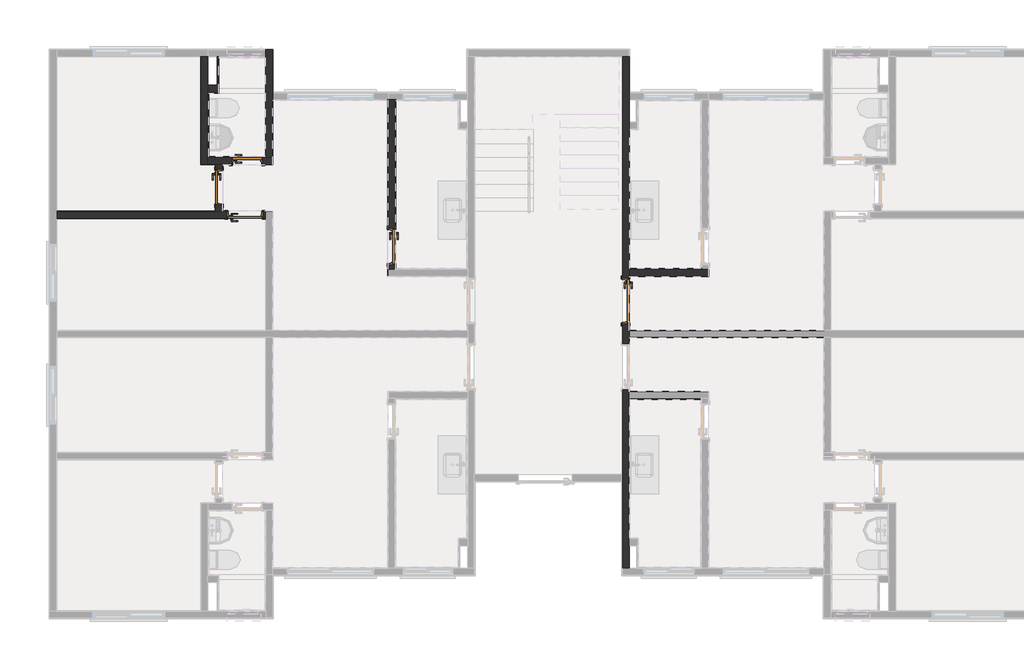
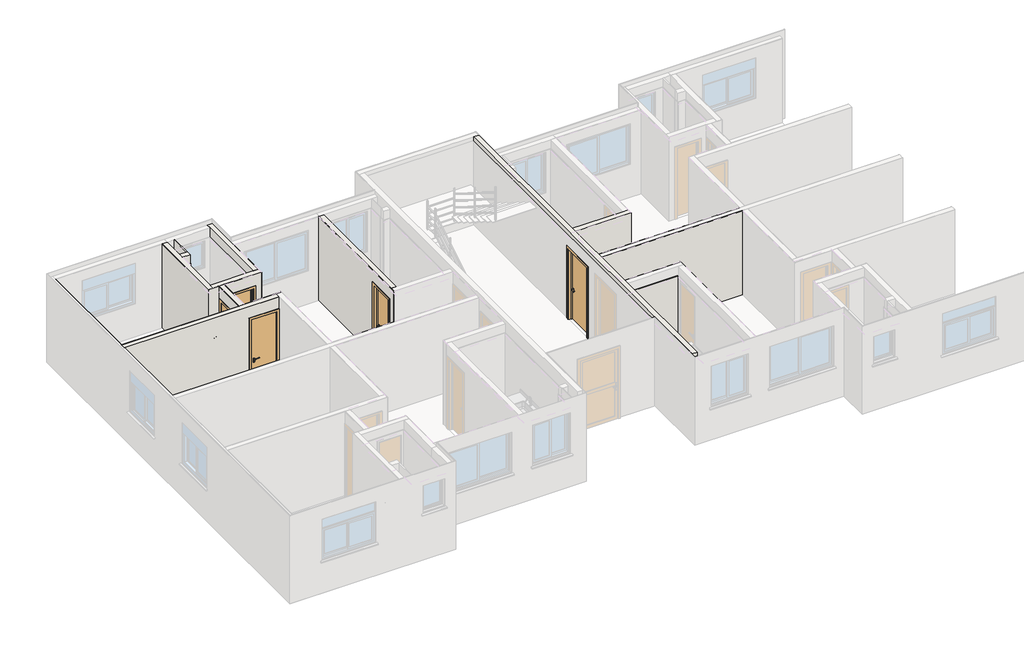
# One storey, part 4 of 9: 36 walls, 5 doors.
"""IFC4 building model written with IfcOpenShell, lengths in millimetres."""

from ifc_helpers import new_model, si_unit, frame, origin, place, context, project, spatial, polyline, outline, extrude, faceted_brep, transform, mapped, element, save
from components import porta_de_madeira_interna_60_x_210_porta_de_madeira_interna_6d4bee1b, porta_de_madeira_interna_70_x_210_porta_de_madeira_interna_d0067c94, porta_de_madeira_interna_70_x_210_porta_de_madeira_interna_f307109d, porta_de_madeira_interna_90x210_porta_de_madeira_interna_90_f331fdd0

model = new_model("IFC4")

# Units and contexts
model_context = context("Model", 3, world=origin())
ifc_project = project(units=[si_unit("LENGTHUNIT", "METRE", prefix="MILLI")], contexts=[model_context])

# Site, building, storey
site = spatial("IfcSite", under=ifc_project)
building = spatial("IfcBuilding", under=site)
storey = spatial("IfcBuildingStorey", under=building, Name="3º Pavimento", Elevation=5260.0)

# Doors
placement = place(None, origin())
porta_de_madeira_interna_60_x_210_porta_de_madeira_interna_shape = porta_de_madeira_interna_60_x_210_porta_de_madeira_interna_6d4bee1b(model_context)
element("IfcDoor", 1, ObjectType="Porta de Madeira Interna 60 x 210 : Porta de Madeira Interna 60 x 210", at=placement, inside=storey, context=model_context, shape_type="MappedRepresentation", body=[
    mapped(porta_de_madeira_interna_60_x_210_porta_de_madeira_interna_shape, transform((4137.9990083, 10003.1988664, 5260.0), x_axis=(1.0, 0.0, 0.0), y_axis=(0.0, 1.0, 0.0), z_axis=(0.0, 0.0, 1.0))),
])
porta_de_madeira_interna_70_x_210_porta_de_madeira_interna_shape = porta_de_madeira_interna_70_x_210_porta_de_madeira_interna_d0067c94(model_context)
element("IfcDoor", 2, ObjectType="Porta de Madeira Interna 70 x 210 : Porta de Madeira Interna 70 x 210", at=placement, inside=storey, context=model_context, shape_type="MappedRepresentation", body=[
    mapped(porta_de_madeira_interna_70_x_210_porta_de_madeira_interna_shape, transform((7146.1736861, 8221.3603139, 5260.0), x_axis=(0.0, -1.0, 0.0), y_axis=(1.0, 0.0, 0.0), z_axis=(0.0, 0.0, 1.0))),
])
porta_de_madeira_interna_70_x_210_porta_de_madeira_interna_2_shape = porta_de_madeira_interna_70_x_210_porta_de_madeira_interna_f307109d(model_context)
element("IfcDoor", 3, ObjectType="Porta de Madeira Interna 70 x 210 : Porta de Madeira Interna 70 x 210", at=placement, inside=storey, context=model_context, shape_type="MappedRepresentation", body=[
    mapped(porta_de_madeira_interna_70_x_210_porta_de_madeira_interna_2_shape, transform((3546.8230641, 9457.0248023, 5260.0), x_axis=(0.0, -1.0, 0.0), y_axis=(1.0, 0.0, 0.0), z_axis=(0.0, 0.0, 1.0))),
])
element("IfcDoor", 4, ObjectType="Porta de Madeira Interna 70 x 210 : Porta de Madeira Interna 70 x 210", at=placement, inside=storey, context=model_context, shape_type="MappedRepresentation", body=[
    mapped(porta_de_madeira_interna_70_x_210_porta_de_madeira_interna_2_shape, transform((4092.999908, 8876.8494803, 5260.0), x_axis=(1.0, 0.0, 0.0), y_axis=(0.0, 1.0, 0.0), z_axis=(0.0, 0.0, 1.0))),
])
porta_de_madeira_interna_90x210_porta_de_madeira_interna_90_shape = porta_de_madeira_interna_90x210_porta_de_madeira_interna_90_f331fdd0(model_context)
element("IfcDoor", 5, ObjectType="Porta de Madeira Interna 90x210 : Porta de Madeira Interna 90 x 210", at=placement, inside=storey, context=model_context, shape_type="MappedRepresentation", body=[
    mapped(porta_de_madeira_interna_90x210_porta_de_madeira_interna_90_shape, transform((12023.1734066, 7085.0103139, 5260.0), x_axis=(0.0, -1.0, 0.0), y_axis=(1.0, 0.0, 0.0), z_axis=(0.0, 0.0, 1.0))),
])

# Walls
element("IfcWall", 6, ObjectType="Mureta box", at=placement, inside=storey, context=model_context, shape_type="SweptSolid", body=[
    extrude(outline(polyline([(3529.99398, 11505.0235306), (4509.99398, 11505.0235306), (4509.99398, 11495.0235306), (3529.99398, 11495.0235306), (3529.99398, 11505.0235306)])), frame((0.0, 0.0, 5260.0), z_axis=(0.0, 0.0, 1.0), x_axis=(1.0, 0.0, 0.0)), (0.0, 0.0, 1.0), 90.0),
    extrude(outline(polyline([(4509.99398, 11425.0235306), (3529.99398, 11425.0235306), (3529.99398, 11435.0235306), (4509.99398, 11435.0235306), (4509.99398, 11425.0235306)])), frame((0.0, 0.0, 5260.0), z_axis=(0.0, 0.0, 1.0), x_axis=(1.0, 0.0, 0.0)), (0.0, 0.0, 1.0), 90.0),
    extrude(outline(polyline([(3529.99398, 11435.0235306), (3529.99398, 11495.0235306), (4509.99398, 11495.0235306), (4509.99398, 11435.0235306), (3529.99398, 11435.0235306)])), frame((0.0, 0.0, 5260.0), z_axis=(0.0, 0.0, 1.0), x_axis=(1.0, 0.0, 0.0)), (0.0, 0.0, 1.0), 90.0),
])
element("IfcWall", 7, ObjectType="Alvenaria Estrutural", at=placement, inside=storey, context=model_context, shape_type="Brep", body=[
    faceted_brep([(3619.9980641, 9930.0238664, 7770.0), (3619.9980641, 9924.0238664, 7770.0), (3619.9980641, 8956.0244803, 7770.0), (3619.9980641, 8950.0244803, 7770.0), (3619.9980641, 8950.0244803, 5260.0), (3619.9980641, 8956.0244803, 5260.0), (3619.9980641, 9082.0248023, 5260.0), (3619.9980641, 9082.0248023, 7385.0), (3619.9980641, 9832.0248023, 7385.0), (3619.9980641, 9832.0248023, 5260.0), (3619.9980641, 9924.0238664, 5260.0), (3619.9980641, 9930.0238664, 5260.0), (3479.9980641, 8950.0244803, 7770.0), (3479.9980641, 9924.0238664, 7770.0), (3479.9980641, 9930.0238664, 7770.0), (3479.9980641, 9930.0238664, 5260.0), (3479.9980641, 9924.0238664, 5260.0), (3479.9980641, 9832.0248023, 5260.0), (3479.9980641, 9832.0248023, 7385.0), (3479.9980641, 9082.0248023, 7385.0), (3479.9980641, 9082.0248023, 5260.0), (3479.9980641, 8950.0244803, 5260.0)], [[[0, 1, 2, 3, 4, 5, 6, 7, 8, 9, 10, 11]], [[12, 13, 14, 15, 16, 17, 18, 19, 20, 21]], [[5, 4, 21, 20, 6]], [[1, 0, 14, 13, 12, 3, 2]], [[7, 6, 20, 19]], [[8, 7, 19, 18]], [[9, 8, 18, 17]], [[4, 3, 12, 21]], [[0, 11, 15, 14]], [[10, 9, 17, 16, 15, 11]]]),
])
element("IfcWall", 8, ObjectType="Alvenaria Estrutural", at=placement, inside=storey, context=model_context, shape_type="Brep", body=[
    faceted_brep([(3179.9977061, 12180.0252435, 5260.0), (3179.9977061, 12174.0253822, 5260.0), (3179.9977061, 9930.025593, 5260.0), (3179.9977061, 9930.025593, 7770.0), (3179.9977061, 12174.0253822, 7770.0), (3179.9977061, 12180.0252435, 7770.0), (3319.9977061, 12180.0252435, 5260.0), (3319.9977061, 12180.0252435, 7770.0), (3319.9977061, 11580.0235306, 7770.0), (3319.9977061, 11440.0235306, 7770.0), (3319.9977061, 10070.0238664, 7770.0), (3319.9977061, 9930.025593, 7770.0), (3319.9977061, 9930.025593, 5260.0), (3319.9977061, 10070.0238664, 5260.0), (3319.9977061, 10090.0238664, 5260.0), (3319.9977061, 11420.0235306, 5260.0), (3319.9977061, 11440.0235306, 5260.0), (3319.9977061, 11580.0235306, 5260.0)], [[[0, 1, 2, 3, 4, 5]], [[6, 7, 8, 9, 10, 11, 12, 13, 14, 15, 16, 17]], [[1, 0, 6, 17, 16, 15, 14, 13, 12, 2]], [[3, 2, 12, 11]], [[4, 3, 11, 10, 9, 8, 7, 5]], [[0, 5, 7, 6]]]),
])
element("IfcWall", 9, ObjectType="Alvenaria Estrutural", at=placement, inside=storey, context=model_context, shape_type="Brep", body=[
    faceted_brep([(3319.9977061, 11440.0235306, 5260.0), (3539.99398, 11440.0235306, 5260.0), (3539.99398, 11440.0235306, 7770.0), (3319.9977061, 11440.0235306, 7770.0), (3319.9977061, 11580.0235306, 5260.0), (3319.9977061, 11580.0235306, 7770.0), (3516.99398, 11580.0235306, 7770.0), (3539.99398, 11580.0235306, 7770.0), (3539.99398, 11580.0235306, 5260.0), (3516.99398, 11580.0235306, 5260.0)], [[[0, 1, 2, 3]], [[4, 5, 6, 7, 8, 9]], [[1, 0, 4, 9, 8]], [[3, 2, 7, 6, 5]], [[2, 1, 8, 7]], [[0, 3, 5, 4]]]),
])
element("IfcWall", 10, ObjectType="Alvenaria Estrutural", at=placement, inside=storey, context=model_context, shape_type="Brep", body=[
    faceted_brep([(4669.9986472, 9930.0238664, 7770.0), (3625.9980641, 9930.0238664, 7770.0), (3619.9980641, 9930.0238664, 7770.0), (3479.9980641, 9930.0238664, 7770.0), (3319.9977061, 9930.0238664, 7770.0), (3319.9977061, 9930.0238664, 5260.0), (3479.9980641, 9930.0238664, 5260.0), (3619.9980641, 9930.0238664, 5260.0), (3625.9980641, 9930.0238664, 5260.0), (3812.9990083, 9930.0238664, 5260.0), (3812.9990083, 9930.0238664, 7385.0), (4462.9990083, 9930.0238664, 7385.0), (4462.9990083, 9930.0238664, 5260.0), (4669.9986472, 9930.0238664, 5260.0), (3319.9977061, 10070.0238664, 7770.0), (4529.9986472, 10070.0238664, 7770.0), (4669.9986472, 10070.0238664, 7770.0), (4669.9986472, 10070.0238664, 5260.0), (4529.9986472, 10070.0238664, 5260.0), (4462.9990083, 10070.0238664, 5260.0), (4462.9990083, 10070.0238664, 7385.0), (3812.9990083, 10070.0238664, 7385.0), (3812.9990083, 10070.0238664, 5260.0), (3319.9977061, 10070.0238664, 5260.0), (3319.9977061, 10070.0238664, 7510.0)], [[[0, 1, 2, 3, 4, 5, 6, 7, 8, 9, 10, 11, 12, 13]], [[14, 15, 16, 17, 18, 19, 20, 21, 22, 23, 24]], [[6, 5, 23, 22, 9, 8, 7]], [[1, 0, 16, 15, 14, 4, 3, 2]], [[12, 11, 20, 19]], [[11, 10, 21, 20]], [[10, 9, 22, 21]], [[0, 13, 17, 16]], [[5, 4, 14, 24, 23]], [[13, 12, 19, 18, 17]]]),
])
element("IfcWall", 11, ObjectType="Alvenaria Estrutural", at=placement, inside=storey, context=model_context, shape_type="Brep", body=[
    faceted_brep([(4529.9986472, 12320.025593, 5260.0), (4529.9986472, 12180.025593, 5260.0), (4529.9986472, 10090.0238664, 5260.0), (4529.9986472, 10070.0238664, 5260.0), (4529.9986472, 10070.0238664, 7510.0), (4529.9986472, 10070.0238664, 7770.0), (4529.9986472, 12180.025593, 7770.0), (4529.9986472, 12320.025593, 7770.0), (4669.9986472, 12320.025593, 5260.0), (4669.9986472, 12320.025593, 7770.0), (4669.9986472, 11420.0223004, 7770.0), (4669.9986472, 11280.0223004, 7770.0), (4669.9986472, 11274.0223004, 7770.0), (4669.9986472, 10070.0238664, 7770.0), (4669.9986472, 10070.0238664, 5260.0), (4669.9986472, 11274.0223004, 5260.0), (4669.9986472, 11280.0223004, 5260.0), (4669.9986472, 11420.0223004, 5260.0), (4669.9986472, 11436.0223004, 5260.0)], [[[0, 1, 2, 3, 4, 5, 6, 7]], [[8, 9, 10, 11, 12, 13, 14, 15, 16, 17, 18]], [[1, 0, 8, 18, 17, 16, 15, 14, 3, 2]], [[6, 5, 13, 12, 11, 10, 9, 7]], [[0, 7, 9, 8]], [[4, 3, 14, 13, 5]]]),
])
element("IfcWall", 12, ObjectType="Alvenaria Estrutural", at=placement, inside=storey, context=model_context, shape_type="Brep", body=[
    faceted_brep([(169.9991825, 8950.0244803, 7770.0), (175.9991825, 8950.0244803, 7770.0), (3473.9980641, 8950.0244803, 7770.0), (3479.9980641, 8950.0244803, 7770.0), (3619.9980641, 8950.0244803, 7770.0), (3625.9980641, 8950.0244803, 7770.0), (4529.9996867, 8950.0244803, 7770.0), (4529.9996867, 8950.0244803, 5260.0), (4467.999908, 8950.0244803, 5260.0), (4467.999908, 8950.0244803, 7385.0), (3717.999908, 8950.0244803, 7385.0), (3717.999908, 8950.0244803, 5260.0), (3625.9980641, 8950.0244803, 5260.0), (3619.9980641, 8950.0244803, 5260.0), (3479.9980641, 8950.0244803, 5260.0), (3473.9980641, 8950.0244803, 5260.0), (175.9991825, 8950.0244803, 5260.0), (169.9991825, 8950.0244803, 5260.0), (4529.9996867, 8810.0244803, 7770.0), (4523.9996867, 8810.0244803, 7770.0), (175.9991825, 8810.0244803, 7770.0), (169.9991825, 8810.0244803, 7770.0), (169.9991825, 8810.0244803, 5260.0), (175.9991825, 8810.0244803, 5260.0), (3717.999908, 8810.0244803, 5260.0), (3717.999908, 8810.0244803, 7385.0), (4467.999908, 8810.0244803, 7385.0), (4467.999908, 8810.0244803, 5260.0), (4523.9996867, 8810.0244803, 5260.0), (4529.9996867, 8810.0244803, 5260.0)], [[[0, 1, 2, 3, 4, 5, 6, 7, 8, 9, 10, 11, 12, 13, 14, 15, 16, 17]], [[18, 19, 20, 21, 22, 23, 24, 25, 26, 27, 28, 29]], [[8, 7, 29, 28, 27]], [[1, 0, 21, 20, 19, 18, 6, 5, 4, 3, 2]], [[9, 8, 27, 26]], [[10, 9, 26, 25]], [[11, 10, 25, 24]], [[7, 6, 18, 29]], [[0, 17, 22, 21]], [[12, 11, 24, 23, 22, 17, 16, 15, 14, 13]]]),
])
element("IfcWall", 13, ObjectType="Alvenaria Estrutural", at=placement, inside=storey, context=model_context, shape_type="Brep", body=[
    faceted_brep([(7072.9986861, 7746.3603139, 7770.0), (7072.9986861, 11274.0223004, 7770.0), (7072.9986861, 11280.0223004, 7770.0), (7072.9986861, 11280.0223004, 5260.0), (7072.9986861, 11274.0223004, 5260.0), (7072.9986861, 8596.3603139, 5260.0), (7072.9986861, 8596.3603139, 7385.0), (7072.9986861, 7846.3603139, 7385.0), (7072.9986861, 7846.3603139, 5260.0), (7072.9986861, 7746.3603139, 5260.0), (7212.9986861, 11280.0223004, 7770.0), (7212.9986861, 7746.3603139, 7770.0), (7212.9986861, 7746.3603139, 7510.0), (7212.9986861, 7746.3603139, 5260.0), (7212.9986861, 7766.3603139, 5260.0), (7212.9986861, 7846.3603139, 5260.0), (7212.9986861, 7846.3603139, 7385.0), (7212.9986861, 8596.3603139, 7385.0), (7212.9986861, 8596.3603139, 5260.0), (7212.9986861, 11260.0223004, 5260.0), (7212.9986861, 11280.0223004, 5260.0), (7212.9986861, 11280.0223004, 7510.0), (7079.9990083, 11280.0223004, 5260.0), (7079.9990083, 11280.0223004, 7770.0)], [[[0, 1, 2, 3, 4, 5, 6, 7, 8, 9]], [[10, 11, 12, 13, 14, 15, 16, 17, 18, 19, 20, 21]], [[4, 3, 22, 20, 19, 18, 5]], [[1, 0, 11, 10, 23, 2]], [[8, 7, 16, 15]], [[7, 6, 17, 16]], [[6, 5, 18, 17]], [[0, 9, 13, 12, 11]], [[3, 2, 23, 10, 21, 20, 22]], [[9, 8, 15, 14, 13]]]),
])
element("IfcWall", 14, ObjectType="Alvenaria Estrutural", at=placement, inside=storey, context=model_context, shape_type="Brep", body=[
    faceted_brep([(11949.9984066, 12173.9995833, 5260.0), (11949.9984066, 12179.9995833, 5260.0), (12089.9984066, 12179.9995833, 5260.0), (12089.9984066, 11436.0223004, 5260.0), (12089.9984066, 11420.0223004, 5260.0), (12089.9984066, 10815.0073729, 5260.0), (12089.9984066, 10675.0073729, 5260.0), (12089.9984066, 10655.0073729, 5260.0), (12089.9984066, 7766.3603139, 5260.0), (12089.9984066, 7746.3603139, 5260.0), (12089.9984066, 7606.3603139, 5260.0), (12089.9984066, 7560.0103139, 5260.0), (11949.9984066, 7560.0103139, 5260.0), (11949.9984066, 7560.0103139, 5270.0), (12089.9984066, 7560.0103139, 5270.0), (12089.9984066, 7560.0103139, 7385.0), (11949.9984066, 7560.0103139, 7385.0), (11949.9984066, 6610.0103139, 5260.0), (11949.9984066, 6610.0103139, 5270.0), (11949.9984066, 6610.0103139, 7385.0), (12089.9984066, 6610.0103139, 7385.0), (12089.9984066, 6610.0103139, 5270.0), (12089.9984066, 6610.0103139, 5260.0), (11949.9984066, 6190.0103139, 5260.0), (12089.9984066, 6476.0103139, 5260.0), (12089.9984066, 6470.0103139, 5260.0), (12089.9984066, 6330.0103139, 5260.0), (12089.9984066, 6324.0103139, 5260.0), (12089.9984066, 6190.0103139, 5260.0), (11949.9984066, 6190.0103139, 5270.0), (12089.9984066, 6190.0103139, 5270.0), (12089.9984066, 6190.0103139, 7385.0), (11949.9984066, 6190.0103139, 7385.0), (11949.9984066, 5240.0103139, 5260.0), (11949.9984066, 5240.0103139, 5270.0), (11949.9984066, 5240.0103139, 7385.0), (12089.9984066, 5240.0103139, 7385.0), (12089.9984066, 5240.0103139, 5270.0), (12089.9984066, 5240.0103139, 5260.0), (11949.9984066, 3468.9995833, 5260.0), (12089.9984066, 5193.6603139, 5260.0), (12089.9984066, 5053.6603139, 5260.0), (12089.9984066, 5033.6603139, 5260.0), (12089.9984066, 2145.0132549, 5260.0), (12089.9984066, 2125.0132549, 5260.0), (12089.9984066, 1985.0132549, 5260.0), (12089.9984066, 1519.9983274, 5260.0), (11949.9984066, 1519.9983274, 5260.0), (11949.9984066, 3314.00443, 5260.0), (11949.9984066, 3330.00443, 5260.0), (11949.9984066, 1519.9983274, 5270.0), (12089.9984066, 1519.9983274, 5270.0), (12089.9984066, 1519.9983274, 7780.0), (12089.9984066, 1519.9983274, 7890.0), (11949.9984066, 1519.9983274, 7890.0), (11949.9984066, 1519.9983274, 7780.0), (12089.9984066, 12179.9995833, 5270.0), (12089.9984066, 12179.9995833, 7780.0), (12089.9984066, 12179.9995833, 7890.0), (12089.9984066, 11436.0223004, 7890.0), (12089.9984066, 11420.0223004, 7890.0), (11949.9984066, 3314.00443, 7890.0), (11949.9984066, 3330.00443, 7890.0), (11949.9984066, 12179.9995833, 7890.0), (11949.9984066, 12179.9995833, 7780.0), (11949.9984066, 12179.9995833, 7770.0), (11949.9984066, 12179.9995833, 5270.0)], [[[0, 1, 2, 3, 4, 5, 6, 7, 8, 9, 10, 11, 12]], [[13, 12, 11, 14, 15, 16]], [[17, 18, 19, 20, 21, 22]], [[23, 17, 22, 24, 25, 26, 27, 28]], [[29, 23, 28, 30, 31, 32]], [[33, 34, 35, 36, 37, 38]], [[39, 33, 38, 40, 41, 42, 43, 44, 45, 46, 47, 48, 49]], [[50, 47, 46, 51, 52, 53, 54, 55]], [[51, 46, 45, 44, 43, 42, 41, 40, 38, 37, 36, 31, 30, 28, 27, 26, 25, 24, 22, 21, 20, 15, 14, 11, 10, 9, 8, 7, 6, 5, 4, 3, 2, 56, 57, 58, 59, 60, 53, 52]], [[19, 16, 15, 20]], [[35, 32, 31, 36]], [[34, 33, 39, 49, 48, 47, 50, 55, 54, 61, 62, 63, 64, 65, 66, 1, 0, 12, 13, 16, 19, 18, 17, 23, 29, 32, 35]], [[1, 66, 65, 64, 63, 58, 57, 56, 2]], [[61, 54, 53, 60, 59, 58, 63, 62]]]),
])
element("IfcWall", 15, ObjectType="Alvenaria Estrutural", at=placement, inside=storey, context=model_context, shape_type="Brep", body=[
    faceted_brep([(12089.9984066, 7606.3603139, 5260.0), (12095.9984066, 7606.3603139, 5260.0), (13746.9960213, 7606.3603139, 5260.0), (13746.9960213, 7606.3603139, 7770.0), (12095.9984066, 7606.3603139, 7770.0), (12089.9984066, 7606.3603139, 7770.0), (12089.9984066, 7746.3603139, 5260.0), (12089.9984066, 7746.3603139, 7510.0), (12089.9984066, 7746.3603139, 7770.0), (13606.9960213, 7746.3603139, 7770.0), (13746.9960213, 7746.3603139, 7770.0), (13746.9960213, 7746.3603139, 5260.0), (13606.9960213, 7746.3603139, 5260.0), (13586.992975, 7746.3603139, 5260.0), (12109.9984066, 7746.3603139, 5260.0)], [[[0, 1, 2, 3, 4, 5]], [[6, 7, 8, 9, 10, 11, 12, 13, 14]], [[1, 0, 6, 14, 13, 12, 11, 2]], [[4, 3, 10, 9, 8, 5]], [[3, 2, 11, 10]], [[0, 5, 8, 7, 6]]]),
])
element("IfcWall", 16, ObjectType="Azulejo", at=placement, inside=storey, context=model_context, shape_type="SweptSolid", body=[
    extrude(outline(polyline([(11280.0223004, 5260.0), (8596.3603139, 5260.0), (8596.3603139, 7385.0), (7846.3603139, 7385.0), (7846.3603139, 5260.0), (7746.3603139, 5260.0), (7746.3603139, 7510.0), (11280.0223004, 7510.0), (11280.0223004, 5260.0)])), frame((7223.0017324, 0.0, 0.0), z_axis=(1.0, 0.0, 0.0), x_axis=(0.0, 1.0, 0.0)), (0.0, 0.0, 1.0), 10.0),
    extrude(outline(polyline([(7746.3603139, 7510.0), (11280.0223004, 7510.0), (11280.0223004, 5260.0), (8596.3603139, 5260.0), (8596.3603139, 7385.0), (7846.3603139, 7385.0), (7846.3603139, 5260.0), (7746.3603139, 5260.0), (7746.3603139, 7510.0)])), frame((7213.0017324, 0.0, 0.0), z_axis=(1.0, 0.0, 0.0), x_axis=(0.0, 1.0, 0.0)), (0.0, 0.0, 1.0), 10.0),
])
element("IfcWall", 17, ObjectType="Azulejo", at=placement, inside=storey, context=model_context, shape_type="SolidModel", body=[
    faceted_brep([(3339.9976538, 10090.0238664, 5260.0), (3812.9990083, 10090.0238664, 5260.0), (3812.9990083, 10080.0238664, 5260.0), (3329.9976538, 10080.0238664, 5260.0), (3329.9976538, 10090.0238664, 5260.0), (4509.9990083, 10090.0238664, 7510.0), (3339.9976538, 10090.0238664, 7510.0), (3329.9976538, 10090.0238664, 7510.0), (3329.9976538, 10080.0238664, 7510.0), (4519.9990083, 10080.0238664, 7510.0), (4519.9990083, 10090.0238664, 7510.0), (4462.9990083, 10090.0238664, 7385.0), (4462.9990083, 10090.0238664, 5260.0), (4462.9990083, 10080.0238664, 5260.0), (4462.9990083, 10080.0238664, 7385.0), (3812.9990083, 10080.0238664, 7385.0), (3812.9990083, 10090.0238664, 7385.0), (4509.9990083, 10090.0238664, 5260.0), (4519.9990083, 10090.0238664, 5260.0), (4519.9990083, 10080.0238664, 5260.0)], [[[0, 1, 2, 3, 4]], [[5, 6, 7, 8, 9, 10]], [[11, 12, 13, 14]], [[11, 14, 15, 16]], [[2, 1, 16, 15]], [[13, 12, 17, 18, 19]], [[14, 13, 19, 9, 8, 3, 2, 15]], [[1, 0, 4, 7, 6, 5, 10, 18, 17, 12, 11, 16]], [[4, 3, 8, 7]], [[10, 9, 19, 18]]]),
    extrude(outline(polyline([(7510.0, 4529.9986472), (7510.0, 3319.9977061), (5260.0, 3319.9977061), (5260.0, 3812.9990083), (7385.0, 3812.9990083), (7385.0, 4462.9990083), (5260.0, 4462.9990083), (5260.0, 4529.9986472), (7510.0, 4529.9986472)])), frame((0.0, 10070.0238664, 0.0), z_axis=(0.0, 1.0, 0.0), x_axis=(0.0, 0.0, 1.0)), (0.0, 0.0, 1.0), 10.0),
])
element("IfcWall", 18, ObjectType="Azulejo", at=placement, inside=storey, context=model_context, shape_type="SweptSolid", body=[
    extrude(outline(polyline([(3549.99398, 11580.0235306), (3549.99398, 11430.0235306), (3539.99398, 11430.0235306), (3539.99398, 11580.0235306), (3549.99398, 11580.0235306)])), frame((0.0, 0.0, 5260.0), z_axis=(0.0, 0.0, 1.0), x_axis=(1.0, 0.0, 0.0)), (0.0, 0.0, 1.0), 2250.0),
    extrude(outline(polyline([(3529.99398, 11440.0235306), (3529.99398, 11580.0235306), (3539.99398, 11580.0235306), (3539.99398, 11440.0235306), (3529.99398, 11440.0235306)])), frame((0.0, 0.0, 5260.0), z_axis=(0.0, 0.0, 1.0), x_axis=(1.0, 0.0, 0.0)), (0.0, 0.0, 1.0), 2250.0),
])
element("IfcWall", 19, ObjectType="Azulejo", at=placement, inside=storey, context=model_context, shape_type="Brep", body=[
    faceted_brep([(3549.99398, 11430.0235306, 5260.0), (3549.99398, 11420.0235306, 5260.0), (3339.9976538, 11420.0235306, 5260.0), (3329.9976538, 11420.0235306, 5260.0), (3329.9976538, 11430.0235306, 5260.0), (3339.9976538, 11420.0235306, 7510.0), (3549.99398, 11420.0235306, 7510.0), (3549.99398, 11430.0235306, 7510.0), (3329.9976538, 11430.0235306, 7510.0), (3329.9976538, 11420.0235306, 7510.0)], [[[0, 1, 2, 3, 4]], [[5, 6, 7, 8, 9]], [[1, 0, 7, 6]], [[7, 0, 4, 8]], [[2, 1, 6, 5, 9, 3]], [[4, 3, 9, 8]]]),
    faceted_brep([(3319.9977061, 11430.0235306, 5260.0), (3539.99398, 11430.0235306, 5260.0), (3539.99398, 11430.0235306, 7510.0), (3319.9977061, 11430.0235306, 7510.0), (3319.9977061, 11440.0235306, 5260.0), (3319.9977061, 11440.0235306, 7510.0), (3529.99398, 11440.0235306, 7510.0), (3539.99398, 11440.0235306, 7510.0), (3539.99398, 11440.0235306, 5260.0), (3529.99398, 11440.0235306, 5260.0)], [[[0, 1, 2, 3]], [[4, 5, 6, 7, 8, 9]], [[9, 8, 1, 0, 4]], [[6, 5, 3, 2, 7]], [[5, 4, 0, 3]], [[8, 7, 2, 1]]]),
])
element("IfcWall", 20, ObjectType="Azulejo", at=placement, inside=storey, context=model_context, shape_type="SweptSolid", body=[
    extrude(outline(polyline([(3339.9976538, 11420.0235306), (3339.9976538, 10090.0238664), (3329.9976538, 10090.0238664), (3329.9976538, 11420.0235306), (3339.9976538, 11420.0235306)])), frame((0.0, 0.0, 5260.0), z_axis=(0.0, 0.0, 1.0), x_axis=(1.0, 0.0, 0.0)), (0.0, 0.0, 1.0), 2250.0),
    extrude(outline(polyline([(3319.9976538, 10080.0238664), (3319.9976538, 11430.0235306), (3329.9976538, 11430.0235306), (3329.9976538, 10080.0238664), (3319.9976538, 10080.0238664)])), frame((0.0, 0.0, 5260.0), z_axis=(0.0, 0.0, 1.0), x_axis=(1.0, 0.0, 0.0)), (0.0, 0.0, 1.0), 2250.0),
])
element("IfcWall", 21, ObjectType="Azulejo", at=placement, inside=storey, context=model_context, shape_type="SweptSolid", body=[
    extrude(outline(polyline([(13606.9960213, 5033.6603139), (12089.9984066, 5033.6603139), (12089.9984066, 5043.6603139), (13606.9960213, 5043.6603139), (13606.9960213, 5033.6603139)])), frame((0.0, 0.0, 5260.0), z_axis=(0.0, 0.0, 1.0), x_axis=(1.0, 0.0, 0.0)), (0.0, 0.0, 1.0), 2250.0),
    extrude(outline(polyline([(12089.9984066, 5053.6603139), (13606.9960213, 5053.6603139), (13606.9960213, 5043.6603139), (12089.9984066, 5043.6603139), (12089.9984066, 5053.6603139)])), frame((0.0, 0.0, 5260.0), z_axis=(0.0, 0.0, 1.0), x_axis=(1.0, 0.0, 0.0)), (0.0, 0.0, 1.0), 2250.0),
])
element("IfcWall", 22, ObjectType="Azulejo", at=placement, inside=storey, context=model_context, shape_type="SweptSolid", body=[
    extrude(outline(polyline([(12089.9984066, 7766.3603139), (13606.9960213, 7766.3603139), (13606.9960213, 7756.3603139), (12089.9984066, 7756.3603139), (12089.9984066, 7766.3603139)])), frame((0.0, 0.0, 5260.0), z_axis=(0.0, 0.0, 1.0), x_axis=(1.0, 0.0, 0.0)), (0.0, 0.0, 1.0), 2250.0),
    extrude(outline(polyline([(13606.9960213, 7746.3603139), (12089.9984066, 7746.3603139), (12089.9984066, 7756.3603139), (13606.9960213, 7756.3603139), (13606.9960213, 7746.3603139)])), frame((0.0, 0.0, 5260.0), z_axis=(0.0, 0.0, 1.0), x_axis=(1.0, 0.0, 0.0)), (0.0, 0.0, 1.0), 2250.0),
])
element("IfcWall", 23, ObjectType="Azulejo - Shaft", at=placement, inside=storey, context=model_context, shape_type="SweptSolid", body=[
    extrude(outline(polyline([(3539.99398, 11580.0235306), (3539.99398, 12160.025593), (3549.99398, 12160.025593), (3549.99398, 11580.0235306), (3539.99398, 11580.0235306)])), frame((0.0, 0.0, 5260.0), z_axis=(0.0, 0.0, 1.0), x_axis=(1.0, 0.0, 0.0)), (0.0, 0.0, 1.0), 2250.0),
])
element("IfcWall", 24, ObjectType="Gesso Liso + Pintura", at=placement, inside=storey, context=model_context, shape_type="SweptSolid", body=[
    extrude(outline(polyline([(7770.0, 4529.9996867), (7770.0, 169.9991825), (5260.0, 169.9991825), (5260.0, 3717.999908), (7385.0, 3717.999908), (7385.0, 4467.999908), (5260.0, 4467.999908), (5260.0, 4529.9996867), (7770.0, 4529.9996867)])), frame((0.0, 8804.0244803, 0.0), z_axis=(0.0, 1.0, 0.0), x_axis=(0.0, 0.0, 1.0)), (0.0, 0.0, 1.0), 1.0),
    extrude(outline(polyline([(5260.0, 169.9991825), (5260.0, 3717.999908), (7385.0, 3717.999908), (7385.0, 4467.999908), (5260.0, 4467.999908), (5260.0, 4529.9996867), (7770.0, 4529.9996867), (7770.0, 169.9991825), (5260.0, 169.9991825)])), frame((0.0, 8805.0244803, 0.0), z_axis=(0.0, 1.0, 0.0), x_axis=(0.0, 0.0, 1.0)), (0.0, 0.0, 1.0), 5.0),
])
element("IfcWall", 25, ObjectType="Gesso Liso + Pintura", at=placement, inside=storey, context=model_context, shape_type="SolidModel", body=[
    faceted_brep([(175.9991825, 12174.0253822, 5260.0), (175.9991825, 8950.0244803, 5260.0), (174.9991825, 8950.0244803, 5260.0), (174.9991825, 12175.0253822, 5260.0), (175.9991825, 12175.0253822, 5260.0), (174.9991825, 8950.0244803, 7770.0), (175.9991825, 8950.0244803, 7770.0), (175.9991825, 12174.0253822, 7770.0), (175.9991825, 12175.0253822, 7770.0), (174.9991825, 12175.0253822, 7770.0)], [[[0, 1, 2, 3, 4]], [[5, 6, 7, 8, 9]], [[2, 1, 6, 5]], [[2, 5, 9, 3]], [[1, 0, 4, 8, 7, 6]], [[4, 3, 9, 8]]]),
    extrude(outline(polyline([(169.9991825, 8950.0244803), (169.9991825, 12180.0252435), (174.9991825, 12180.0252435), (174.9991825, 8950.0244803), (169.9991825, 8950.0244803)])), frame((0.0, 0.0, 5260.0), z_axis=(0.0, 0.0, 1.0), x_axis=(1.0, 0.0, 0.0)), (0.0, 0.0, 1.0), 2510.0),
])
element("IfcWall", 26, ObjectType="Gesso Liso + Pintura", at=placement, inside=storey, context=model_context, shape_type="SolidModel", body=[
    extrude(outline(polyline([(3173.9976538, 9924.0238664), (3173.9976538, 12174.0253822), (3174.9976538, 12174.0253822), (3174.9976538, 9924.0238664), (3173.9976538, 9924.0238664)])), frame((0.0, 0.0, 5260.0), z_axis=(0.0, 0.0, 1.0), x_axis=(1.0, 0.0, 0.0)), (0.0, 0.0, 1.0), 2510.0),
    faceted_brep([(3174.9976538, 12175.0253822, 5260.0), (3174.9976538, 9925.0238664, 5260.0), (3174.9976538, 9925.0238664, 7770.0), (3174.9976538, 12175.0253822, 7770.0), (3179.9976538, 12175.0253822, 5260.0), (3179.9976538, 12175.0253822, 7770.0), (3179.9976538, 9930.0238664, 7770.0), (3179.9976538, 9925.0238664, 7770.0), (3179.9976538, 9925.0238664, 5260.0), (3179.9976538, 9930.0238664, 5260.0)], [[[0, 1, 2, 3]], [[4, 5, 6, 7, 8, 9]], [[9, 8, 1, 0, 4]], [[6, 5, 3, 2, 7]], [[5, 4, 0, 3]], [[8, 7, 2, 1]]]),
])
element("IfcWall", 27, ObjectType="Gesso Liso + Pintura", at=placement, inside=storey, context=model_context, shape_type="SolidModel", body=[
    faceted_brep([(3473.9980641, 9924.0238664, 5260.0), (3174.9976538, 9924.0238664, 5260.0), (3174.9976538, 9925.0238664, 5260.0), (3474.9980641, 9925.0238664, 5260.0), (3474.9980641, 9924.0238664, 5260.0), (3174.9976538, 9924.0238664, 7770.0), (3473.9980641, 9924.0238664, 7770.0), (3474.9980641, 9924.0238664, 7770.0), (3474.9980641, 9925.0238664, 7770.0), (3174.9976538, 9925.0238664, 7770.0)], [[[0, 1, 2, 3, 4]], [[5, 6, 7, 8, 9]], [[2, 9, 8, 3]], [[1, 0, 4, 7, 6, 5]], [[1, 5, 9, 2]], [[4, 3, 8, 7]]]),
    extrude(outline(polyline([(3179.9976538, 9930.0238664), (3479.9980641, 9930.0238664), (3479.9980641, 9925.0238664), (3179.9976538, 9925.0238664), (3179.9976538, 9930.0238664)])), frame((0.0, 0.0, 5260.0), z_axis=(0.0, 0.0, 1.0), x_axis=(1.0, 0.0, 0.0)), (0.0, 0.0, 1.0), 2510.0),
])
element("IfcWall", 28, ObjectType="Gesso Liso + Pintura", at=placement, inside=storey, context=model_context, shape_type="SolidModel", body=[
    faceted_brep([(3473.9980641, 9832.0248023, 5260.0), (3473.9980641, 9924.0238664, 5260.0), (3474.9980641, 9924.0238664, 5260.0), (3474.9980641, 9832.0248023, 5260.0), (3474.9980641, 9924.0238664, 7770.0), (3473.9980641, 9924.0238664, 7770.0), (3473.9980641, 8956.0244803, 7770.0), (3473.9980641, 8955.0244803, 7770.0), (3474.9980641, 8955.0244803, 7770.0), (3473.9980641, 9082.0248023, 5260.0), (3473.9980641, 9082.0248023, 7385.0), (3474.9980641, 9082.0248023, 7385.0), (3474.9980641, 9082.0248023, 5260.0), (3473.9980641, 9832.0248023, 7385.0), (3474.9980641, 9832.0248023, 7385.0), (3474.9980641, 8955.0244803, 5260.0), (3473.9980641, 8955.0244803, 5260.0), (3473.9980641, 8956.0244803, 5260.0)], [[[0, 1, 2, 3]], [[4, 5, 6, 7, 8]], [[9, 10, 11, 12]], [[11, 10, 13, 14]], [[0, 3, 14, 13]], [[2, 1, 5, 4]], [[9, 12, 15, 16, 17]], [[3, 2, 4, 8, 15, 12, 11, 14]], [[1, 0, 13, 10, 9, 17, 16, 7, 6, 5]], [[8, 7, 16, 15]]]),
    extrude(outline(polyline([(9925.0238664, 5260.0), (9832.0248023, 5260.0), (9832.0248023, 7385.0), (9082.0248023, 7385.0), (9082.0248023, 5260.0), (8950.0244803, 5260.0), (8950.0244803, 7770.0), (9925.0238664, 7770.0), (9925.0238664, 5260.0)])), frame((3474.9980641, 0.0, 0.0), z_axis=(1.0, 0.0, 0.0), x_axis=(0.0, 1.0, 0.0)), (0.0, 0.0, 1.0), 5.0),
])
element("IfcWall", 29, ObjectType="Gesso Liso + Pintura", at=placement, inside=storey, context=model_context, shape_type="SweptSolid", body=[
    extrude(outline(polyline([(169.9991825, 8956.0244803), (3473.9980641, 8956.0244803), (3473.9980641, 8955.0244803), (169.9991825, 8955.0244803), (169.9991825, 8956.0244803)])), frame((0.0, 0.0, 5260.0), z_axis=(0.0, 0.0, 1.0), x_axis=(1.0, 0.0, 0.0)), (0.0, 0.0, 1.0), 2510.0),
    extrude(outline(polyline([(3474.9980641, 8950.0244803), (169.9991825, 8950.0244803), (169.9991825, 8955.0244803), (3474.9980641, 8955.0244803), (3474.9980641, 8950.0244803)])), frame((0.0, 0.0, 5260.0), z_axis=(0.0, 0.0, 1.0), x_axis=(1.0, 0.0, 0.0)), (0.0, 0.0, 1.0), 2510.0),
])
element("IfcWall", 30, ObjectType="Gesso Liso + Pintura", at=placement, inside=storey, context=model_context, shape_type="SolidModel", body=[
    extrude(outline(polyline([(4675.9990083, 11280.0223004), (4675.9990083, 9924.0238664), (4674.9990083, 9924.0238664), (4674.9990083, 11280.0223004), (4675.9990083, 11280.0223004)])), frame((0.0, 0.0, 5260.0), z_axis=(0.0, 0.0, 1.0), x_axis=(1.0, 0.0, 0.0)), (0.0, 0.0, 1.0), 2510.0),
    faceted_brep([(4674.9990083, 9925.0238664, 5260.0), (4674.9990083, 11280.0223004, 5260.0), (4674.9990083, 11280.0223004, 7770.0), (4674.9990083, 9925.0238664, 7770.0), (4669.9990083, 11280.0223004, 5260.0), (4669.9990083, 9930.0238664, 5260.0), (4669.9990083, 9925.0238664, 5260.0), (4669.9990083, 9925.0238664, 7770.0), (4669.9990083, 9930.0238664, 7770.0), (4669.9990083, 11280.0223004, 7770.0)], [[[0, 1, 2, 3]], [[4, 5, 6, 7, 8, 9]], [[5, 4, 1, 0, 6]], [[8, 7, 3, 2, 9]], [[4, 9, 2, 1]], [[7, 6, 0, 3]]]),
])
element("IfcWall", 31, ObjectType="Gesso Liso + Pintura", at=placement, inside=storey, context=model_context, shape_type="SweptSolid", body=[
    extrude(outline(polyline([(7770.0, 4674.9990083), (7770.0, 3619.9980641), (5260.0, 3619.9980641), (5260.0, 3812.9990083), (7385.0, 3812.9990083), (7385.0, 4462.9990083), (5260.0, 4462.9990083), (5260.0, 4674.9990083), (7770.0, 4674.9990083)])), frame((0.0, 9924.0238664, 0.0), z_axis=(0.0, 1.0, 0.0), x_axis=(0.0, 0.0, 1.0)), (0.0, 0.0, 1.0), 1.0),
    extrude(outline(polyline([(5260.0, 4462.9990083), (5260.0, 4669.9990083), (7770.0, 4669.9990083), (7770.0, 3619.9980641), (5260.0, 3619.9980641), (5260.0, 3812.9990083), (7385.0, 3812.9990083), (7385.0, 4462.9990083), (5260.0, 4462.9990083)])), frame((0.0, 9925.0238664, 0.0), z_axis=(0.0, 1.0, 0.0), x_axis=(0.0, 0.0, 1.0)), (0.0, 0.0, 1.0), 5.0),
])
element("IfcWall", 32, ObjectType="Gesso Liso + Pintura", at=placement, inside=storey, context=model_context, shape_type="SweptSolid", body=[
    extrude(outline(polyline([(9930.0238664, 5260.0), (9832.0248023, 5260.0), (9832.0248023, 7385.0), (9082.0248023, 7385.0), (9082.0248023, 5260.0), (8950.0244803, 5260.0), (8950.0244803, 7770.0), (9930.0238664, 7770.0), (9930.0238664, 5260.0)])), frame((3624.9980641, 0.0, 0.0), z_axis=(1.0, 0.0, 0.0), x_axis=(0.0, 1.0, 0.0)), (0.0, 0.0, 1.0), 1.0),
    extrude(outline(polyline([(8950.0244803, 7770.0), (9930.0238664, 7770.0), (9930.0238664, 5260.0), (9832.0248023, 5260.0), (9832.0248023, 7385.0), (9082.0248023, 7385.0), (9082.0248023, 5260.0), (8950.0244803, 5260.0), (8950.0244803, 7770.0)])), frame((3619.9980641, 0.0, 0.0), z_axis=(1.0, 0.0, 0.0), x_axis=(0.0, 1.0, 0.0)), (0.0, 0.0, 1.0), 5.0),
])
element("IfcWall", 33, ObjectType="Gesso Liso + Pintura", at=placement, inside=storey, context=model_context, shape_type="SolidModel", body=[
    extrude(outline(polyline([(5260.0, 3619.9980641), (5260.0, 3717.999908), (7385.0, 3717.999908), (7385.0, 4467.999908), (5260.0, 4467.999908), (5260.0, 4674.9996867), (7770.0, 4674.9996867), (7770.0, 3619.9980641), (5260.0, 3619.9980641)])), frame((0.0, 8955.0244803, 0.0), z_axis=(0.0, 1.0, 0.0), x_axis=(0.0, 0.0, 1.0)), (0.0, 0.0, 1.0), 1.0),
    faceted_brep([(3717.999908, 8955.0244803, 5260.0), (3619.9980641, 8955.0244803, 5260.0), (3619.9980641, 8955.0244803, 7770.0), (4669.9996867, 8955.0244803, 7770.0), (4669.9996867, 8955.0244803, 5260.0), (4467.999908, 8955.0244803, 5260.0), (4467.999908, 8955.0244803, 7385.0), (3717.999908, 8955.0244803, 7385.0), (4669.9996867, 8950.0244803, 7770.0), (4529.9996867, 8950.0244803, 7770.0), (3619.9980641, 8950.0244803, 7770.0), (3619.9980641, 8950.0244803, 5260.0), (3717.999908, 8950.0244803, 5260.0), (3717.999908, 8950.0244803, 7385.0), (4467.999908, 8950.0244803, 7385.0), (4467.999908, 8950.0244803, 5260.0), (4529.9996867, 8950.0244803, 5260.0), (4669.9996867, 8950.0244803, 5260.0)], [[[0, 1, 2, 3, 4, 5, 6, 7]], [[8, 9, 10, 11, 12, 13, 14, 15, 16, 17]], [[12, 11, 1, 0]], [[9, 8, 3, 2, 10]], [[15, 14, 6, 5]], [[14, 13, 7, 6]], [[13, 12, 0, 7]], [[8, 17, 4, 3]], [[11, 10, 2, 1]], [[16, 15, 5, 4, 17]]]),
])
element("IfcWall", 34, ObjectType="Gesso Liso + Pintura", at=placement, inside=storey, context=model_context, shape_type="SolidModel", body=[
    extrude(outline(polyline([(7601.3603139, 7770.0), (11280.0223004, 7770.0), (11280.0223004, 5260.0), (8596.3603139, 5260.0), (8596.3603139, 7385.0), (7846.3603139, 7385.0), (7846.3603139, 5260.0), (7601.3603139, 5260.0), (7601.3603139, 7770.0)])), frame((7066.9986861, 0.0, 0.0), z_axis=(1.0, 0.0, 0.0), x_axis=(0.0, 1.0, 0.0)), (0.0, 0.0, 1.0), 1.0),
    faceted_brep([(7067.9986861, 7846.3603139, 5260.0), (7067.9986861, 7606.3603139, 5260.0), (7067.9986861, 7606.3603139, 7770.0), (7067.9986861, 11280.0223004, 7770.0), (7067.9986861, 11280.0223004, 5260.0), (7067.9986861, 8596.3603139, 5260.0), (7067.9986861, 8596.3603139, 7385.0), (7067.9986861, 7846.3603139, 7385.0), (7072.9986861, 11280.0223004, 7770.0), (7072.9986861, 7746.3603139, 7770.0), (7072.9986861, 7606.3603139, 7770.0), (7072.9986861, 7606.3603139, 5260.0), (7072.9986861, 7746.3603139, 5260.0), (7072.9986861, 7846.3603139, 5260.0), (7072.9986861, 7846.3603139, 7385.0), (7072.9986861, 8596.3603139, 7385.0), (7072.9986861, 8596.3603139, 5260.0), (7072.9986861, 11280.0223004, 5260.0)], [[[0, 1, 2, 3, 4, 5, 6, 7]], [[8, 9, 10, 11, 12, 13, 14, 15, 16, 17]], [[12, 11, 1, 0, 13]], [[9, 8, 3, 2, 10]], [[14, 13, 0, 7]], [[15, 14, 7, 6]], [[16, 15, 6, 5]], [[11, 10, 2, 1]], [[8, 17, 4, 3]], [[17, 16, 5, 4]]]),
])
element("IfcWall", 35, ObjectType="Gesso Liso + Pintura", at=placement, inside=storey, context=model_context, shape_type="SweptSolid", body=[
    extrude(outline(polyline([(16149.9950207, 6324.0103139), (12089.9984066, 6324.0103139), (12089.9984066, 6325.0103139), (16149.9950207, 6325.0103139), (16149.9950207, 6324.0103139)])), frame((0.0, 0.0, 5260.0), z_axis=(0.0, 0.0, 1.0), x_axis=(1.0, 0.0, 0.0)), (0.0, 0.0, 1.0), 2510.0),
    extrude(outline(polyline([(12089.9984066, 6330.0103139), (16149.9950207, 6330.0103139), (16149.9950207, 6325.0103139), (12089.9984066, 6325.0103139), (12089.9984066, 6330.0103139)])), frame((0.0, 0.0, 5260.0), z_axis=(0.0, 0.0, 1.0), x_axis=(1.0, 0.0, 0.0)), (0.0, 0.0, 1.0), 2510.0),
])
element("IfcWall", 36, ObjectType="Gesso Liso + Pintura", at=placement, inside=storey, context=model_context, shape_type="SolidModel", body=[
    faceted_brep([(12095.9984066, 6330.0103139, 5260.0), (12095.9984066, 6190.0103139, 5260.0), (12094.9984066, 6190.0103139, 5260.0), (12094.9984066, 6330.0103139, 5260.0), (12095.9984066, 5199.6603139, 7770.0), (12095.9984066, 6330.0103139, 7770.0), (12094.9984066, 6330.0103139, 7770.0), (12094.9984066, 5198.6603139, 7770.0), (12095.9984066, 5198.6603139, 7770.0), (12095.9984066, 6190.0103139, 7385.0), (12094.9984066, 6190.0103139, 7385.0), (12095.9984066, 5240.0103139, 7385.0), (12094.9984066, 5240.0103139, 7385.0), (12095.9984066, 5240.0103139, 5260.0), (12094.9984066, 5240.0103139, 5260.0), (12095.9984066, 5199.6603139, 5260.0), (12095.9984066, 5198.6603139, 5260.0), (12094.9984066, 5198.6603139, 5260.0)], [[[0, 1, 2, 3]], [[4, 5, 6, 7, 8]], [[2, 1, 9, 10]], [[10, 9, 11, 12]], [[12, 11, 13, 14]], [[0, 3, 6, 5]], [[14, 13, 15, 16, 17]], [[3, 2, 10, 12, 14, 17, 7, 6]], [[1, 0, 5, 4, 8, 16, 15, 13, 11, 9]], [[8, 7, 17, 16]]]),
    extrude(outline(polyline([(5193.6603139, 7770.0), (6330.0103139, 7770.0), (6330.0103139, 5260.0), (6190.0103139, 5260.0), (6190.0103139, 7385.0), (5240.0103139, 7385.0), (5240.0103139, 5260.0), (5193.6603139, 5260.0), (5193.6603139, 7770.0)])), frame((12089.9984066, 0.0, 0.0), z_axis=(1.0, 0.0, 0.0), x_axis=(0.0, 1.0, 0.0)), (0.0, 0.0, 1.0), 5.0),
])
element("IfcWall", 37, ObjectType="Gesso Liso + Pintura", at=placement, inside=storey, context=model_context, shape_type="SolidModel", body=[
    extrude(outline(polyline([(12095.9984066, 5199.6603139), (13752.9960213, 5199.6603139), (13752.9960213, 5198.6603139), (12095.9984066, 5198.6603139), (12095.9984066, 5199.6603139)])), frame((0.0, 0.0, 5260.0), z_axis=(0.0, 0.0, 1.0), x_axis=(1.0, 0.0, 0.0)), (0.0, 0.0, 1.0), 2510.0),
    faceted_brep([(13751.9960213, 5198.6603139, 5260.0), (12094.9984066, 5198.6603139, 5260.0), (12094.9984066, 5198.6603139, 7770.0), (13751.9960213, 5198.6603139, 7770.0), (13751.9960213, 5193.6603139, 5260.0), (13751.9960213, 5193.6603139, 7770.0), (13746.9960213, 5193.6603139, 7770.0), (12094.9984066, 5193.6603139, 7770.0), (12094.9984066, 5193.6603139, 5260.0), (13746.9960213, 5193.6603139, 5260.0)], [[[0, 1, 2, 3]], [[4, 5, 6, 7, 8, 9]], [[9, 8, 1, 0, 4]], [[6, 5, 3, 2, 7]], [[8, 7, 2, 1]], [[5, 4, 0, 3]]]),
])
element("IfcWall", 38, ObjectType="Gesso Liso + Pintura", at=placement, inside=storey, context=model_context, shape_type="SweptSolid", body=[
    extrude(outline(polyline([(12089.9984066, 6476.0103139), (16149.9950207, 6476.0103139), (16149.9950207, 6475.0103139), (12089.9984066, 6475.0103139), (12089.9984066, 6476.0103139)])), frame((0.0, 0.0, 5260.0), z_axis=(0.0, 0.0, 1.0), x_axis=(1.0, 0.0, 0.0)), (0.0, 0.0, 1.0), 2510.0),
    extrude(outline(polyline([(16149.9950207, 6470.0103139), (12089.9984066, 6470.0103139), (12089.9984066, 6475.0103139), (16149.9950207, 6475.0103139), (16149.9950207, 6470.0103139)])), frame((0.0, 0.0, 5260.0), z_axis=(0.0, 0.0, 1.0), x_axis=(1.0, 0.0, 0.0)), (0.0, 0.0, 1.0), 2510.0),
])
element("IfcWall", 39, ObjectType="Gesso Liso + Pintura", at=placement, inside=storey, context=model_context, shape_type="SolidModel", body=[
    faceted_brep([(12095.9984066, 6610.0103139, 5260.0), (12095.9984066, 6470.0103139, 5260.0), (12094.9984066, 6470.0103139, 5260.0), (12094.9984066, 6610.0103139, 5260.0), (12094.9984066, 6470.0103139, 7770.0), (12095.9984066, 6470.0103139, 7770.0), (12095.9984066, 7600.3603139, 7770.0), (12095.9984066, 7601.3603139, 7770.0), (12094.9984066, 7601.3603139, 7770.0), (12094.9984066, 6610.0103139, 7385.0), (12095.9984066, 6610.0103139, 7385.0), (12094.9984066, 7560.0103139, 7385.0), (12095.9984066, 7560.0103139, 7385.0), (12094.9984066, 7560.0103139, 5260.0), (12095.9984066, 7560.0103139, 5260.0), (12094.9984066, 7601.3603139, 5260.0), (12095.9984066, 7601.3603139, 5260.0), (12095.9984066, 7600.3603139, 5260.0)], [[[0, 1, 2, 3]], [[4, 5, 6, 7, 8]], [[0, 3, 9, 10]], [[10, 9, 11, 12]], [[12, 11, 13, 14]], [[2, 1, 5, 4]], [[14, 13, 15, 16, 17]], [[3, 2, 4, 8, 15, 13, 11, 9]], [[1, 0, 10, 12, 14, 17, 16, 7, 6, 5]], [[8, 7, 16, 15]]]),
    extrude(outline(polyline([(6470.0103139, 7770.0), (7606.3603139, 7770.0), (7606.3603139, 5260.0), (7560.0103139, 5260.0), (7560.0103139, 7385.0), (6610.0103139, 7385.0), (6610.0103139, 5260.0), (6470.0103139, 5260.0), (6470.0103139, 7770.0)])), frame((12089.9984066, 0.0, 0.0), z_axis=(1.0, 0.0, 0.0), x_axis=(0.0, 1.0, 0.0)), (0.0, 0.0, 1.0), 5.0),
])
element("IfcWall", 40, ObjectType="Gesso Liso + Pintura", at=placement, inside=storey, context=model_context, shape_type="SolidModel", body=[
    extrude(outline(polyline([(13752.9960213, 7600.3603139), (12095.9984066, 7600.3603139), (12095.9984066, 7601.3603139), (13752.9960213, 7601.3603139), (13752.9960213, 7600.3603139)])), frame((0.0, 0.0, 5260.0), z_axis=(0.0, 0.0, 1.0), x_axis=(1.0, 0.0, 0.0)), (0.0, 0.0, 1.0), 2510.0),
    faceted_brep([(12094.9984066, 7601.3603139, 5260.0), (13751.9960213, 7601.3603139, 5260.0), (13751.9960213, 7601.3603139, 7770.0), (12094.9984066, 7601.3603139, 7770.0), (13751.9960213, 7606.3603139, 5260.0), (13746.9960213, 7606.3603139, 5260.0), (12094.9984066, 7606.3603139, 5260.0), (12094.9984066, 7606.3603139, 7770.0), (13746.9960213, 7606.3603139, 7770.0), (13751.9960213, 7606.3603139, 7770.0)], [[[0, 1, 2, 3]], [[4, 5, 6, 7, 8, 9]], [[5, 4, 1, 0, 6]], [[8, 7, 3, 2, 9]], [[7, 6, 0, 3]], [[4, 9, 2, 1]]]),
])
element("IfcWall", 41, ObjectType="Shaft Drywall", at=placement, inside=storey, context=model_context, shape_type="Brep", body=[
    faceted_brep([(3539.99398, 11580.0235306, 5260.0), (3539.99398, 12160.025593, 5260.0), (3539.99398, 12180.025593, 5260.0), (3539.99398, 12180.025593, 7510.0), (3539.99398, 12180.025593, 7770.0), (3539.99398, 11580.0235306, 7770.0), (3516.99398, 11580.0235306, 5260.0), (3516.99398, 11580.0235306, 7770.0), (3516.99398, 12180.025593, 7770.0), (3516.99398, 12180.025593, 5260.0)], [[[0, 1, 2, 3, 4, 5]], [[6, 7, 8, 9]], [[1, 0, 6, 9, 2]], [[5, 4, 8, 7]], [[0, 5, 7, 6]], [[3, 2, 9, 8, 4]]]),
])

save(model, "model.ifc")
